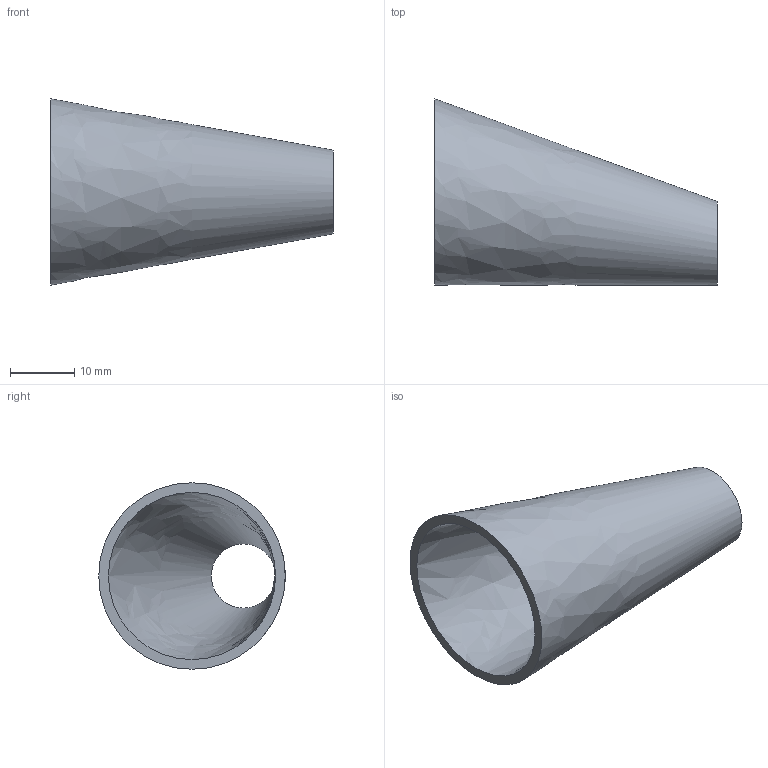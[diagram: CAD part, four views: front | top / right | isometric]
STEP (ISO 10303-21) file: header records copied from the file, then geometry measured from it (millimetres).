
FILE_DESCRIPTION(('FreeCAD Model'),'2;1');
FILE_NAME( '/home/martin/Documents/proyect/accesorios/stp/red-exc_DN25-10.step', '2017-12-31T13:02:02',('Author'),(''), 'Open CASCADE STEP processor 6.8','FreeCAD','Unknown');
FILE_SCHEMA(('AUTOMOTIVE_DESIGN_CC2 { 1 2 10303 214 -1 1 5 4 }'));
Length unit declared in the file: millimetre
Products named in the file (1): red-exc_DN25-10
Bounding box: 44 x 29 x 29 mm (x, y, z)
Volume: 4043.2 mm3; surface area: 5705.4 mm2
Topology: 1 solids, 1 shells, 4 faces, 6 edges, 4 vertices
Faces by surface type: bspline 2, plane 2
Entity records: 247 total; most frequent: CARTESIAN_POINT 87, DIRECTION 26, ORIENTED_EDGE 12, PCURVE 12, DEFINITIONAL_REPRESENTATION 12, CIRCLE 8, LINE 8, VECTOR 8
